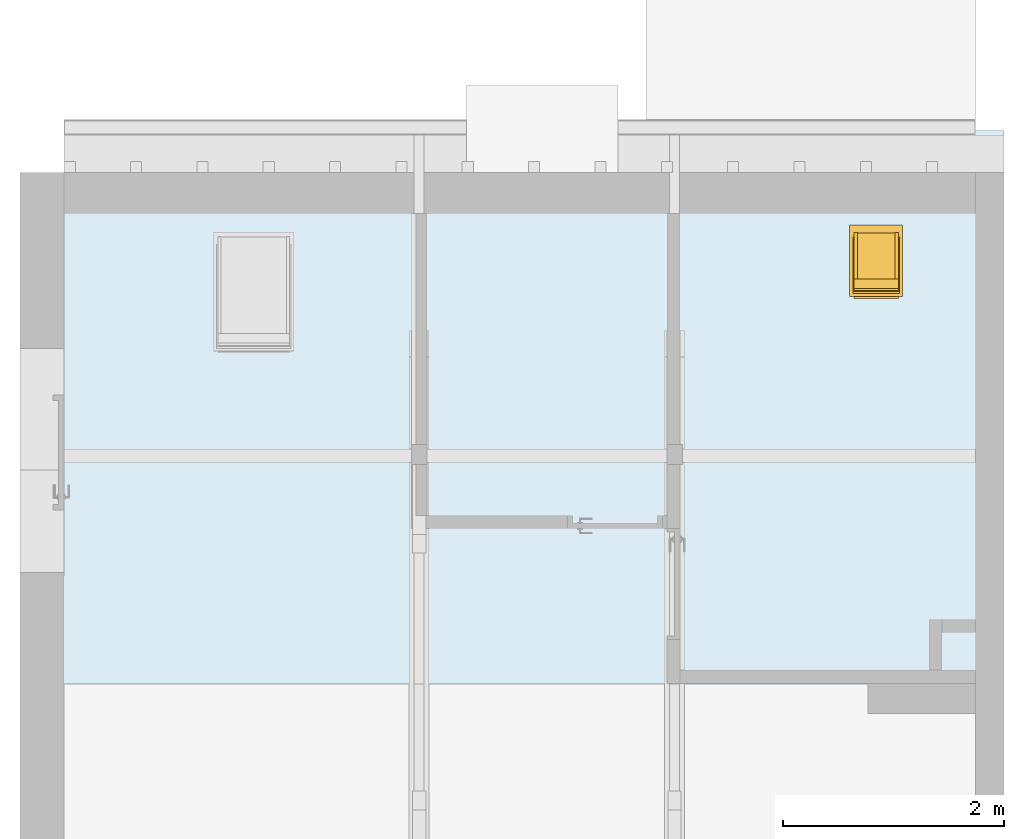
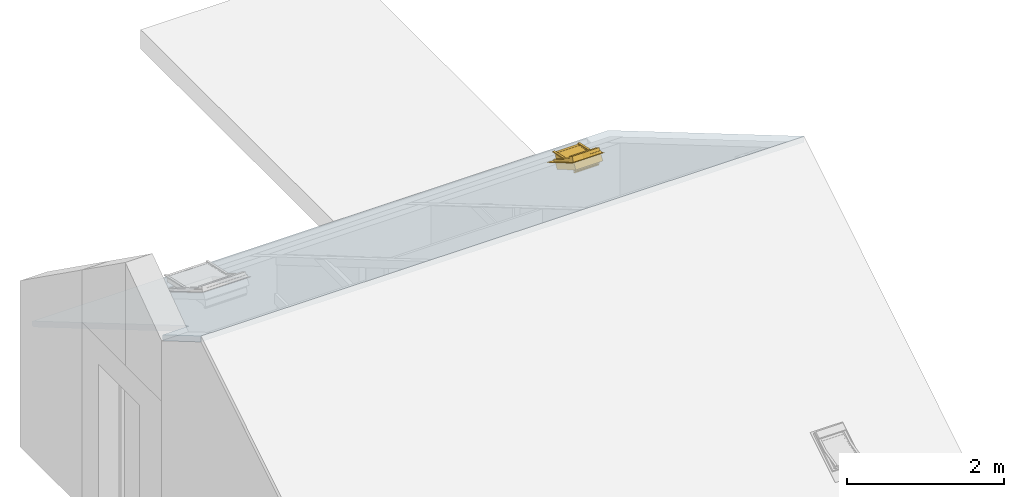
"""IFC4 building model written with IfcOpenShell, lengths in metres."""

from ifc_helpers import new_model, entity, si_unit, converted_unit, derived_unit, frame, frame_2d, origin, origin_with_axes, place, context, subcontext, project, spatial, rectangle, extrude, closed_shell, open_shell, faceted_brep, surface_model, source, transform, mapped, element, fill, aggregate, save


model = new_model("IFC4")

# Units and contexts
model_context = context("Model", 3, precision=1e-05, world=origin())
body_context = subcontext(model_context, "Body", "Model", "MODEL_VIEW")
ifc_project = project(units=[si_unit("LENGTHUNIT", "METRE"), si_unit("AREAUNIT", "SQUARE_METRE"), si_unit("VOLUMEUNIT", "CUBIC_METRE"), si_unit("MASSUNIT", "GRAM", prefix="KILO"), converted_unit("PLANEANGLEUNIT", "DEGREE", entity("IfcPlaneAngleMeasure", 0.0174532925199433), si_unit("PLANEANGLEUNIT", "RADIAN"), dimensions=[0, 0, 0, 0, 0, 0, 0]), derived_unit("THERMALTRANSMITTANCEUNIT", [(si_unit("POWERUNIT", "WATT"), 1), (si_unit("THERMODYNAMICTEMPERATUREUNIT", "KELVIN"), -1), (si_unit("LENGTHUNIT", "METRE"), -2)]), derived_unit("VOLUMETRICFLOWRATEUNIT", [(si_unit("LENGTHUNIT", "METRE"), 3), (converted_unit("TIMEUNIT", "hour", entity("IfcTimeMeasure", 3600.0), si_unit("TIMEUNIT", "SECOND"), dimensions=[0, 0, 1, 0, 0, 0, 0]), -1), (si_unit("LENGTHUNIT", "METRE"), -1)])], contexts=[model_context])

# Building, storeys
building_placement = place(None, origin())
building = spatial("IfcBuilding", under=ifc_project, at=building_placement, Name="Bestandsgebäude A - Sporthalle / Wohnhaus (TB 100-499)   ANPASSEN !!!", CompositionType="ELEMENT")
storey_1_placement = place(building_placement, frame((0.0, 0.0, 7.71)))
storey_1 = spatial("IfcBuildingStorey", under=building, at=storey_1_placement, Name="Geb. A Dachgeschoss (TB 450-499)", CompositionType="ELEMENT", Elevation=7.71)
storey_2_placement = place(storey_1_placement, frame((0.0, 0.0, 7.71)))
storey_2 = spatial("IfcBuildingStorey", under=storey_1, at=storey_2_placement, Name="Architektur (TB 450-459)", CompositionType="PARTIAL")

# Roof, slab, openings, window
roof_placement = place(storey_2_placement, frame((0.0, 0.0, -15.42)))
roof = element("IfcRoof", 1, at=roof_placement, inside=storey_2, PredefinedType="NOTDEFINED")
slab_placement = place(roof_placement, frame((-8.9, 4.62388384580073, 8.83032636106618)))
slab = element("IfcSlab", 2, at=slab_placement, PredefinedType="ROOF", context=body_context, shape_type="Brep", body=[
    faceted_brep([(8.9, 0.00103538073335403, 2.91966265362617), (8.9, 4.96556121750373, 0.0), (0.400000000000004, 4.96556121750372, 0.0), (0.399999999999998, 0.939365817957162, 2.36782579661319), (8.71746334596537e-05, 0.939365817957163, 2.36782579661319), (9.60849683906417e-08, 0.00103538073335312, 2.91966265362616), (1.78891452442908, 3.90897577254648, 0.621383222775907), (2.43891452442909, 3.90897577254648, 0.621383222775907), (2.43891452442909, 3.003893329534, 1.15366676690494), (1.78891452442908, 3.003893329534, 1.15366676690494), (7.54391452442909, 3.9734799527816, 0.583447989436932), (7.94391452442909, 3.9734799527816, 0.583447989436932), (7.94391452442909, 3.49938914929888, 0.862263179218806), (7.54391452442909, 3.49938914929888, 0.862263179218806), (8.9, 0.0, 3.01308079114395), (0.0, 0.0, 3.01308079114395), (9.09381957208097e-05, 0.979920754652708, 2.43678445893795), (0.399999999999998, 0.979920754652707, 2.43678445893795), (0.400000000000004, 5.00611615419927, 0.0689586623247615), (8.9, 5.00611615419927, 0.0689586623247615), (2.43891452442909, 3.94953070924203, 0.690341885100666), (1.78891452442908, 3.94953070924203, 0.690341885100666), (1.78891452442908, 3.04444826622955, 1.2226254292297), (2.43891452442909, 3.04444826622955, 1.2226254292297), (7.94391452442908, 4.01403488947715, 0.652406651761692), (7.54391452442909, 4.01403488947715, 0.652406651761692), (7.54391452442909, 3.53994408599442, 0.931221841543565), (7.94391452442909, 3.53994408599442, 0.931221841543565), (8.9, 5.00611615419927, 0.0), (0.399999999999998, 0.979920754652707, 2.36782579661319), (0.400000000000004, 5.00611615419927, 0.0), (9.09381957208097e-05, 0.979920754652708, 2.36782579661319)], [[[0, 1, 2, 3, 4, 5], [6, 7, 8, 9], [10, 11, 12, 13]], [[14, 15, 16, 17, 18, 19], [20, 21, 22, 23], [24, 25, 26, 27]], [[14, 19, 28, 1, 0]], [[18, 17, 29, 3, 2, 30]], [[16, 15, 5, 4, 31]], [[15, 14, 0, 5]], [[28, 30, 2, 1]], [[19, 18, 30, 28]], [[29, 31, 4, 3]], [[17, 16, 31, 29]], [[20, 7, 6, 21]], [[22, 9, 8, 23]], [[20, 23, 8, 7]], [[22, 21, 6, 9]], [[24, 11, 10, 25]], [[26, 13, 12, 27]], [[24, 27, 12, 11]], [[26, 25, 10, 13]]], orient=[[False, False, False], [False, False, False], [False], [False], [False], [False], [False], [False], [False], [False], [False], [False], [False], [False], [False], [False], [False], [False]]),
])
opening_1_placement = place(slab_placement, frame((2.43891452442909, 3.94953070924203, 0.690341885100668), z_axis=(-2.35561360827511e-16, 0.506936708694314, 0.861983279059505), x_axis=(1.0, 4.64676076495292e-16, 0.0)))
element("IfcOpeningElement", 3, at=opening_1_placement, cuts=slab, Name="Skylight", ObjectType="Opening", context=body_context, shape_type="SweptSolid", body=[
    extrude(rectangle(XDim=0.65, YDim=1.05, at=frame_2d((-0.325, -0.525), x_axis=(-1.0, 0.0))), origin_with_axes(), (0.0, 0.0, -1.0), 0.08),
])
opening_2_placement = place(slab_placement, frame((7.94391452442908, 4.01403488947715, 0.652406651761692), z_axis=(-2.35561360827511e-16, 0.506936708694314, 0.861983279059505), x_axis=(1.0, 4.64676076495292e-16, 0.0)))
opening_2 = element("IfcOpeningElement", 4, at=opening_2_placement, cuts=slab, Name="Skylight", ObjectType="Opening", context=body_context, shape_type="SweptSolid", body=[
    extrude(rectangle(XDim=0.4, YDim=0.55, at=frame_2d((-0.2, -0.275), x_axis=(-1.0, 2.27373675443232e-15))), origin_with_axes(), (0.0, 0.0, -1.0), 0.08),
])
shared_shape = source(origin_with_axes(), body_context, "Body", "SurfaceModel", [
    surface_model("IfcShellBasedSurfaceModel", [(0.03, 0.15, 0.149221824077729), (0.03, 0.15, 0.189221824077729), (0.049999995, 0.15, 0.189221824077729), (0.049999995, 0.15, 0.149221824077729), (0.03, 0.719999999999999, 0.189221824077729), (0.03, 0.719999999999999, 0.149221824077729), (0.049999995, 0.719999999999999, 0.149221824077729), (0.049999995, 0.719999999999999, 0.189221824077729)], [closed_shell([[[0, 1, 2, 3]], [[4, 5, 6, 7]], [[1, 0, 5, 4]], [[2, 1, 4, 7]], [[3, 2, 7, 6]], [[0, 3, 6, 5]]], orient=[[False], [False], [False], [False], [False], [False]])]),
    surface_model("IfcShellBasedSurfaceModel", [(0.430000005, 0.15, 0.149221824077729), (0.430000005, 0.15, 0.189221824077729), (0.45, 0.15, 0.189221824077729), (0.45, 0.15, 0.149221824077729), (0.430000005, 0.719999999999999, 0.189221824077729), (0.430000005, 0.719999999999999, 0.149221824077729), (0.45, 0.719999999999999, 0.149221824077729), (0.45, 0.719999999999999, 0.189221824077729)], [closed_shell([[[0, 1, 2, 3]], [[4, 5, 6, 7]], [[1, 0, 5, 4]], [[2, 1, 4, 7]], [[3, 2, 7, 6]], [[0, 3, 6, 5]]], orient=[[False], [False], [False], [False], [False], [False]])]),
    surface_model("IfcShellBasedSurfaceModel", [(0.049999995, 0.15, 0.149221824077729), (0.049999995, 0.15, 0.184221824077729), (0.430000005, 0.15, 0.184221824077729), (0.430000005, 0.15, 0.149221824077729), (0.049999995, 0.169999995, 0.184221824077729), (0.049999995, 0.169999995, 0.149221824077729), (0.430000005, 0.169999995, 0.149221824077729), (0.430000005, 0.169999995, 0.184221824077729)], [closed_shell([[[0, 1, 2, 3]], [[4, 5, 6, 7]], [[1, 0, 5, 4]], [[2, 1, 4, 7]], [[3, 2, 7, 6]], [[0, 3, 6, 5]]], orient=[[False], [False], [False], [False], [False], [False]])]),
    surface_model("IfcShellBasedSurfaceModel", [(0.049999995, 0.700000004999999, 0.149221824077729), (0.049999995, 0.700000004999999, 0.189221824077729), (0.430000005, 0.700000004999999, 0.189221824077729), (0.430000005, 0.700000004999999, 0.149221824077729), (0.049999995, 0.719999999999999, 0.189221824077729), (0.049999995, 0.719999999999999, 0.149221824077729), (0.430000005, 0.719999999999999, 0.149221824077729), (0.430000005, 0.719999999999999, 0.189221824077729)], [closed_shell([[[0, 1, 2, 3]], [[4, 5, 6, 7]], [[1, 0, 5, 4]], [[2, 1, 4, 7]], [[3, 2, 7, 6]], [[0, 3, 6, 5]]], orient=[[False], [False], [False], [False], [False], [False]])]),
    surface_model("IfcShellBasedSurfaceModel", [(0.0, 0.0, 0.149221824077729), (0.0, 0.0, 0.154221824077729), (0.03, 0.0, 0.154221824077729), (0.03, 0.0, 0.149221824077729), (0.0, 0.719999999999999, 0.154221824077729), (0.0, 0.719999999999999, 0.149221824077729), (0.03, 0.719999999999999, 0.149221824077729), (0.03, 0.719999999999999, 0.154221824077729)], [closed_shell([[[0, 1, 2, 3]], [[4, 5, 6, 7]], [[1, 0, 5, 4]], [[2, 1, 4, 7]], [[3, 2, 7, 6]], [[0, 3, 6, 5]]], orient=[[False], [False], [False], [False], [False], [False]])]),
    surface_model("IfcShellBasedSurfaceModel", [(0.03, 0.0, 0.149221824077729), (0.03, 0.0, 0.154221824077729), (0.45, 0.0, 0.154221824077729), (0.45, 0.0, 0.149221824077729), (0.03, 0.15, 0.154221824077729), (0.03, 0.15, 0.149221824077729), (0.45, 0.15, 0.149221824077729), (0.45, 0.15, 0.154221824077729)], [closed_shell([[[0, 1, 2, 3]], [[4, 5, 6, 7]], [[1, 0, 5, 4]], [[2, 1, 4, 7]], [[3, 2, 7, 6]], [[0, 3, 6, 5]]], orient=[[False], [False], [False], [False], [False], [False]])]),
    surface_model("IfcShellBasedSurfaceModel", [(0.45, 0.0, 0.149221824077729), (0.45, 0.0, 0.154221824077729), (0.48, 0.0, 0.154221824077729), (0.48, 0.0, 0.149221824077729), (0.45, 0.719999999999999, 0.154221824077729), (0.45, 0.719999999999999, 0.149221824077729), (0.48, 0.719999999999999, 0.149221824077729), (0.48, 0.719999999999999, 0.154221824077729)], [closed_shell([[[0, 1, 2, 3]], [[4, 5, 6, 7]], [[1, 0, 5, 4]], [[2, 1, 4, 7]], [[3, 2, 7, 6]], [[0, 3, 6, 5]]], orient=[[False], [False], [False], [False], [False], [False]])]),
    surface_model("IfcShellBasedSurfaceModel", [(0.0, 0.719999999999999, 0.149221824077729), (0.0, 0.719999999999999, 0.154221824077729), (0.48, 0.719999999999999, 0.154221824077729), (0.48, 0.719999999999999, 0.149221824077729), (0.0, 0.749999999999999, 0.154221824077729), (0.0, 0.749999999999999, 0.149221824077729), (0.48, 0.749999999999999, 0.149221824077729), (0.48, 0.749999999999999, 0.154221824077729)], [closed_shell([[[0, 1, 2, 3]], [[4, 5, 6, 7]], [[1, 0, 5, 4]], [[2, 1, 4, 7]], [[3, 2, 7, 6]], [[0, 3, 6, 5]]], orient=[[False], [False], [False], [False], [False], [False]])]),
    surface_model("IfcShellBasedSurfaceModel", [(0.049999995, 0.17999999, 0.149221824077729), (0.049999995, 0.17999999, 0.189221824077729), (0.05999999, 0.17999999, 0.189221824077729), (0.05999999, 0.17999999, 0.0492218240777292), (0.04, 0.17999999, 0.0492218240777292), (0.04, 0.17999999, 0.149221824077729), (0.049999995, 0.690000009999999, 0.189221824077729), (0.049999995, 0.690000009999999, 0.149221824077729), (0.04, 0.690000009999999, 0.149221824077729), (0.04, 0.690000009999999, 0.0492218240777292), (0.05999999, 0.690000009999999, 0.0492218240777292), (0.05999999, 0.690000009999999, 0.189221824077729)], [closed_shell([[[0, 1, 2, 3, 4, 5]], [[6, 7, 8, 9, 10, 11]], [[1, 0, 7, 6]], [[2, 1, 6, 11]], [[3, 2, 11, 10]], [[4, 3, 10, 9]], [[5, 4, 9, 8]], [[0, 5, 8, 7]]], orient=[[False], [False], [False], [False], [False], [False], [False], [False]])]),
    surface_model("IfcShellBasedSurfaceModel", [(0.42000001, 0.17999999, 0.0492218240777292), (0.42000001, 0.17999999, 0.189221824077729), (0.430000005, 0.17999999, 0.189221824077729), (0.430000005, 0.17999999, 0.149221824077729), (0.44, 0.17999999, 0.149221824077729), (0.44, 0.17999999, 0.0492218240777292), (0.42000001, 0.690000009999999, 0.189221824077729), (0.42000001, 0.690000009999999, 0.0492218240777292), (0.44, 0.690000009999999, 0.0492218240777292), (0.44, 0.690000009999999, 0.149221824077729), (0.430000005, 0.690000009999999, 0.149221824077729), (0.430000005, 0.690000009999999, 0.189221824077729)], [closed_shell([[[0, 1, 2, 3, 4, 5]], [[6, 7, 8, 9, 10, 11]], [[1, 0, 7, 6]], [[2, 1, 6, 11]], [[3, 2, 11, 10]], [[4, 3, 10, 9]], [[5, 4, 9, 8]], [[0, 5, 8, 7]]], orient=[[False], [False], [False], [False], [False], [False], [False], [False]])]),
    surface_model("IfcShellBasedSurfaceModel", [(0.04, 0.17999999, 0.184221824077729), (0.04, 0.169999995, 0.184221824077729), (0.04, 0.169999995, 0.149221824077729), (0.04, 0.16, 0.149221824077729), (0.04, 0.16, 0.0492218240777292), (0.04, 0.17999999, 0.0492218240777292), (0.44, 0.169999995, 0.184221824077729), (0.44, 0.17999999, 0.184221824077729), (0.44, 0.17999999, 0.0492218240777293), (0.44, 0.16, 0.0492218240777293), (0.44, 0.16, 0.149221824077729), (0.44, 0.169999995, 0.149221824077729)], [closed_shell([[[0, 1, 2, 3, 4, 5]], [[6, 7, 8, 9, 10, 11]], [[1, 0, 7, 6]], [[2, 1, 6, 11]], [[3, 2, 11, 10]], [[4, 3, 10, 9]], [[5, 4, 9, 8]], [[0, 5, 8, 7]]], orient=[[False], [False], [False], [False], [False], [False], [False], [False]])]),
    surface_model("IfcShellBasedSurfaceModel", [(0.04, 0.700000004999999, 0.189221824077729), (0.04, 0.690000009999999, 0.189221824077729), (0.04, 0.690000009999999, 0.0492218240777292), (0.04, 0.709999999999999, 0.0492218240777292), (0.04, 0.709999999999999, 0.149221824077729), (0.04, 0.700000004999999, 0.149221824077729), (0.44, 0.690000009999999, 0.189221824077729), (0.44, 0.700000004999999, 0.189221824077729), (0.44, 0.700000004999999, 0.149221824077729), (0.44, 0.709999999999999, 0.149221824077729), (0.44, 0.709999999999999, 0.0492218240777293), (0.44, 0.690000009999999, 0.0492218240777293)], [closed_shell([[[0, 1, 2, 3, 4, 5]], [[6, 7, 8, 9, 10, 11]], [[1, 0, 7, 6]], [[2, 1, 6, 11]], [[3, 2, 11, 10]], [[4, 3, 10, 9]], [[5, 4, 9, 8]], [[0, 5, 8, 7]]], orient=[[False], [False], [False], [False], [False], [False], [False], [False]])]),
    surface_model("IfcShellBasedSurfaceModel", [(0.03999999, 0.435, 0.189221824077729), (0.03999999, 0.435, 0.204221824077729), (0.06999999, 0.435, 0.204221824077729), (0.06999999, 0.435, 0.189221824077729), (0.03999999, 0.690000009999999, 0.204221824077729), (0.03999999, 0.690000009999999, 0.189221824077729), (0.06999999, 0.690000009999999, 0.189221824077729), (0.06999999, 0.690000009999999, 0.204221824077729)], [closed_shell([[[0, 1, 2, 3]], [[4, 5, 6, 7]], [[1, 0, 5, 4]], [[2, 1, 4, 7]], [[3, 2, 7, 6]], [[0, 3, 6, 5]]], orient=[[False], [False], [False], [False], [False], [False]])]),
    surface_model("IfcShellBasedSurfaceModel", [(0.41000001, 0.435, 0.189221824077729), (0.41000001, 0.435, 0.204221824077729), (0.44000001, 0.435, 0.204221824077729), (0.44000001, 0.435, 0.189221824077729), (0.41000001, 0.690000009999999, 0.204221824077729), (0.41000001, 0.690000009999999, 0.189221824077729), (0.44000001, 0.690000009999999, 0.189221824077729), (0.44000001, 0.690000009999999, 0.204221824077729)], [closed_shell([[[0, 1, 2, 3]], [[4, 5, 6, 7]], [[1, 0, 5, 4]], [[2, 1, 4, 7]], [[3, 2, 7, 6]], [[0, 3, 6, 5]]], orient=[[False], [False], [False], [False], [False], [False]])]),
    surface_model("IfcShellBasedSurfaceModel", [(0.04, 0.610000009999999, 0.189221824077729), (0.04, 0.610000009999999, 0.229221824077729), (0.44, 0.610000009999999, 0.229221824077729), (0.44, 0.610000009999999, 0.189221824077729), (0.04, 0.709999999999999, 0.229221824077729), (0.04, 0.709999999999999, 0.189221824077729), (0.44, 0.709999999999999, 0.189221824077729), (0.44, 0.709999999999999, 0.229221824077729)], [closed_shell([[[0, 1, 2, 3]], [[4, 5, 6, 7]], [[1, 0, 5, 4]], [[2, 1, 4, 7]], [[3, 2, 7, 6]], [[0, 3, 6, 5]]], orient=[[False], [False], [False], [False], [False], [False]])]),
    surface_model("IfcShellBasedSurfaceModel", [(0.07999998, 0.206093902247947, 0.260197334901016), (0.40000002, 0.206093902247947, 0.260197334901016), (0.40000002, 0.596027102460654, 0.133500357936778), (0.07999998, 0.596027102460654, 0.133500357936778)], [open_shell([[[0, 1, 2, 3]]], orient=[[False]])]),
    surface_model("IfcShellBasedSurfaceModel", [(0.069999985, 0.195810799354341, 0.260909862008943), (0.069999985, 0.197355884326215, 0.265665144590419), (0.07999998, 0.197355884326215, 0.265665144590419), (0.07999998, 0.195810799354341, 0.260909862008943), (0.069999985, 0.606310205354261, 0.132787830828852), (0.069999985, 0.604765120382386, 0.128032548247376), (0.07999998, 0.604765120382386, 0.128032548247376), (0.07999998, 0.606310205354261, 0.132787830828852)], [closed_shell([[[0, 1, 2, 3]], [[4, 5, 6, 7]], [[1, 0, 5, 4]], [[2, 1, 4, 7]], [[3, 2, 7, 6]], [[0, 3, 6, 5]]], orient=[[False], [False], [False], [False], [False], [False]])]),
    surface_model("IfcShellBasedSurfaceModel", [(0.40000002, 0.195810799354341, 0.260909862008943), (0.40000002, 0.197355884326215, 0.265665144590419), (0.410000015, 0.197355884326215, 0.265665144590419), (0.410000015, 0.195810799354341, 0.260909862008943), (0.40000002, 0.606310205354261, 0.132787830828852), (0.40000002, 0.604765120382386, 0.128032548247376), (0.410000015, 0.604765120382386, 0.128032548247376), (0.410000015, 0.606310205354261, 0.132787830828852)], [closed_shell([[[0, 1, 2, 3]], [[4, 5, 6, 7]], [[1, 0, 5, 4]], [[2, 1, 4, 7]], [[3, 2, 7, 6]], [[0, 3, 6, 5]]], orient=[[False], [False], [False], [False], [False], [False]])]),
    surface_model("IfcShellBasedSurfaceModel", [(0.07999998, 0.195810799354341, 0.260909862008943), (0.07999998, 0.197355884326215, 0.265665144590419), (0.40000002, 0.197355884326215, 0.265665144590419), (0.40000002, 0.195810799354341, 0.260909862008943), (0.07999998, 0.206866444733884, 0.262574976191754), (0.07999998, 0.20532135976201, 0.257819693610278), (0.40000002, 0.20532135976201, 0.257819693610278), (0.40000002, 0.206866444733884, 0.262574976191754)], [closed_shell([[[0, 1, 2, 3]], [[4, 5, 6, 7]], [[1, 0, 5, 4]], [[2, 1, 4, 7]], [[3, 2, 7, 6]], [[0, 3, 6, 5]]], orient=[[False], [False], [False], [False], [False], [False]])]),
    surface_model("IfcShellBasedSurfaceModel", [(0.07999998, 0.595254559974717, 0.131122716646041), (0.07999998, 0.596799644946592, 0.135877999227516), (0.40000002, 0.596799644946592, 0.135877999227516), (0.40000002, 0.595254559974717, 0.131122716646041), (0.07999998, 0.606310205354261, 0.132787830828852), (0.07999998, 0.604765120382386, 0.128032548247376), (0.40000002, 0.604765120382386, 0.128032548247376), (0.40000002, 0.606310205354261, 0.132787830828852)], [closed_shell([[[0, 1, 2, 3]], [[4, 5, 6, 7]], [[1, 0, 5, 4]], [[2, 1, 4, 7]], [[3, 2, 7, 6]], [[0, 3, 6, 5]]], orient=[[False], [False], [False], [False], [False], [False]])]),
    surface_model("IfcShellBasedSurfaceModel", [(0.05999999, 0.163123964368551, 0.192670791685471), (0.05999999, 0.187845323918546, 0.268755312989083), (0.069999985, 0.187845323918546, 0.268755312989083), (0.069999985, 0.186300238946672, 0.264000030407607), (0.07999998, 0.186300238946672, 0.264000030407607), (0.07999998, 0.163123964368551, 0.192670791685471), (0.05999999, 0.672884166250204, 0.111156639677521), (0.05999999, 0.648162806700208, 0.0350721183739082), (0.07999998, 0.648162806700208, 0.0350721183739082), (0.07999998, 0.671339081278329, 0.106401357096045), (0.069999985, 0.671339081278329, 0.106401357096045), (0.069999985, 0.672884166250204, 0.111156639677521)], [closed_shell([[[0, 1, 2, 3, 4, 5]], [[6, 7, 8, 9, 10, 11]], [[1, 0, 7, 6]], [[2, 1, 6, 11]], [[3, 2, 11, 10]], [[4, 3, 10, 9]], [[5, 4, 9, 8]], [[0, 5, 8, 7]]], orient=[[False], [False], [False], [False], [False], [False], [False], [False]])]),
    surface_model("IfcShellBasedSurfaceModel", [(0.410000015, 0.186300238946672, 0.264000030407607), (0.410000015, 0.187845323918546, 0.268755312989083), (0.42000001, 0.187845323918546, 0.268755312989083), (0.42000001, 0.163123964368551, 0.192670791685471), (0.40000002, 0.163123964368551, 0.192670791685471), (0.40000002, 0.186300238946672, 0.264000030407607), (0.410000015, 0.672884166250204, 0.111156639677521), (0.410000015, 0.671339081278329, 0.106401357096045), (0.40000002, 0.671339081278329, 0.106401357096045), (0.40000002, 0.648162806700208, 0.0350721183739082), (0.42000001, 0.648162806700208, 0.0350721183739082), (0.42000001, 0.672884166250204, 0.111156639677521)], [closed_shell([[[0, 1, 2, 3, 4, 5]], [[6, 7, 8, 9, 10, 11]], [[1, 0, 7, 6]], [[2, 1, 6, 11]], [[3, 2, 11, 10]], [[4, 3, 10, 9]], [[5, 4, 9, 8]], [[0, 5, 8, 7]]], orient=[[False], [False], [False], [False], [False], [False], [False], [False]])]),
    surface_model("IfcShellBasedSurfaceModel", [(0.07999998, 0.163123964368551, 0.192670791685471), (0.07999998, 0.186300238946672, 0.264000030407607), (0.40000002, 0.186300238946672, 0.264000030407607), (0.40000002, 0.163123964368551, 0.192670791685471), (0.07999998, 0.20532135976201, 0.257819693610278), (0.07999998, 0.182145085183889, 0.186490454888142), (0.40000002, 0.182145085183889, 0.186490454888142), (0.40000002, 0.20532135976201, 0.257819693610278)], [closed_shell([[[0, 1, 2, 3]], [[4, 5, 6, 7]], [[1, 0, 5, 4]], [[2, 1, 4, 7]], [[3, 2, 7, 6]], [[0, 3, 6, 5]]], orient=[[False], [False], [False], [False], [False], [False]])]),
    surface_model("IfcShellBasedSurfaceModel", [(0.07999998, 0.572078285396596, 0.059793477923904), (0.07999998, 0.595254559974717, 0.131122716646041), (0.40000002, 0.595254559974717, 0.131122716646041), (0.40000002, 0.572078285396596, 0.059793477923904), (0.07999998, 0.67133908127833, 0.106401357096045), (0.07999998, 0.648162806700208, 0.0350721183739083), (0.40000002, 0.648162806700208, 0.0350721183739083), (0.40000002, 0.67133908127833, 0.106401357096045)], [closed_shell([[[0, 1, 2, 3]], [[4, 5, 6, 7]], [[1, 0, 5, 4]], [[2, 1, 4, 7]], [[3, 2, 7, 6]], [[0, 3, 6, 5]]], orient=[[False], [False], [False], [False], [False], [False]])]),
    surface_model("IfcShellBasedSurfaceModel", [(0.05999999, 0.576953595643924, 0.0424374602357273), (0.05999999, 0.581588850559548, 0.0567033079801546), (0.42000001, 0.581588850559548, 0.0567033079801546), (0.42000001, 0.576953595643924, 0.0424374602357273), (0.05999999, 0.638652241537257, 0.0381622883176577), (0.05999999, 0.634016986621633, 0.0238964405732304), (0.42000001, 0.634016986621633, 0.0238964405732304), (0.42000001, 0.638652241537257, 0.0381622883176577)], [closed_shell([[[0, 1, 2, 3]], [[4, 5, 6, 7]], [[1, 0, 5, 4]], [[2, 1, 4, 7]], [[3, 2, 7, 6]], [[0, 3, 6, 5]]], orient=[[False], [False], [False], [False], [False], [False]])]),
    surface_model("IfcShellBasedSurfaceModel", [(0.07499999, 0.592172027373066, 0.0164634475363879), (0.07499999, 0.598352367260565, 0.035484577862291), (0.08999999, 0.598352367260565, 0.035484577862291), (0.08999999, 0.592172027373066, 0.0164634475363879), (0.07499999, 0.612618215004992, 0.0308493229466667), (0.07499999, 0.606437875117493, 0.0118281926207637), (0.08999999, 0.606437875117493, 0.0118281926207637), (0.08999999, 0.612618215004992, 0.0308493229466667)], [closed_shell([[[0, 1, 2, 3]], [[4, 5, 6, 7]], [[1, 0, 5, 4]], [[2, 1, 4, 7]], [[3, 2, 7, 6]], [[0, 3, 6, 5]]], orient=[[False], [False], [False], [False], [False], [False]])]),
    surface_model("IfcShellBasedSurfaceModel", [(0.179999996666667, 0.592172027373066, 0.0164634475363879), (0.179999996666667, 0.598352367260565, 0.035484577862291), (0.194999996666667, 0.598352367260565, 0.035484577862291), (0.194999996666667, 0.592172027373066, 0.0164634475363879), (0.179999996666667, 0.612618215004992, 0.0308493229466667), (0.179999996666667, 0.606437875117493, 0.0118281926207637), (0.194999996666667, 0.606437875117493, 0.0118281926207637), (0.194999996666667, 0.612618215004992, 0.0308493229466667)], [closed_shell([[[0, 1, 2, 3]], [[4, 5, 6, 7]], [[1, 0, 5, 4]], [[2, 1, 4, 7]], [[3, 2, 7, 6]], [[0, 3, 6, 5]]], orient=[[False], [False], [False], [False], [False], [False]])]),
    surface_model("IfcShellBasedSurfaceModel", [(0.285000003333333, 0.592172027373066, 0.0164634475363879), (0.285000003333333, 0.598352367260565, 0.035484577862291), (0.300000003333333, 0.598352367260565, 0.035484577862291), (0.300000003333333, 0.592172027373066, 0.0164634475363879), (0.285000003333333, 0.612618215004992, 0.0308493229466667), (0.285000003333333, 0.606437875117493, 0.0118281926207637), (0.300000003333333, 0.606437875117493, 0.0118281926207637), (0.300000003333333, 0.612618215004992, 0.0308493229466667)], [closed_shell([[[0, 1, 2, 3]], [[4, 5, 6, 7]], [[1, 0, 5, 4]], [[2, 1, 4, 7]], [[3, 2, 7, 6]], [[0, 3, 6, 5]]], orient=[[False], [False], [False], [False], [False], [False]])]),
    surface_model("IfcShellBasedSurfaceModel", [(0.39000001, 0.592172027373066, 0.0164634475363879), (0.39000001, 0.598352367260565, 0.035484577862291), (0.40500001, 0.598352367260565, 0.035484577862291), (0.40500001, 0.592172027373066, 0.0164634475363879), (0.39000001, 0.612618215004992, 0.0308493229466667), (0.39000001, 0.606437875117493, 0.0118281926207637), (0.40500001, 0.606437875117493, 0.0118281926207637), (0.40500001, 0.612618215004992, 0.0308493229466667)], [closed_shell([[[0, 1, 2, 3]], [[4, 5, 6, 7]], [[1, 0, 5, 4]], [[2, 1, 4, 7]], [[3, 2, 7, 6]], [[0, 3, 6, 5]]], orient=[[False], [False], [False], [False], [False], [False]])]),
    surface_model("IfcShellBasedSurfaceModel", [(0.05999999, 0.581948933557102, 0.00927050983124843), (0.05999999, 0.585039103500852, 0.0187810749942), (0.42000001, 0.585039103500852, 0.0187810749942), (0.42000001, 0.581948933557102, 0.00927050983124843), (0.05999999, 0.613570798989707, 0.00951056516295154), (0.05999999, 0.610480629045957, 0.0), (0.42000001, 0.610480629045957, 0.0), (0.42000001, 0.613570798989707, 0.00951056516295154)], [closed_shell([[[0, 1, 2, 3]], [[4, 5, 6, 7]], [[1, 0, 5, 4]], [[2, 1, 4, 7]], [[3, 2, 7, 6]], [[0, 3, 6, 5]]], orient=[[False], [False], [False], [False], [False], [False]])]),
    surface_model("IfcShellBasedSurfaceModel", [(0.03999999, 0.159313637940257, 0.278025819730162), (0.03999999, 0.163948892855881, 0.292291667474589), (0.06999999, 0.163948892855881, 0.292291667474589), (0.06999999, 0.159313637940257, 0.278025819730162), (0.03999999, 0.435, 0.204221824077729), (0.03999999, 0.430364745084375, 0.189955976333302), (0.06999999, 0.430364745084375, 0.189955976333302), (0.06999999, 0.435, 0.204221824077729)], [closed_shell([[[0, 1, 2, 3]], [[4, 5, 6, 7]], [[1, 0, 5, 4]], [[2, 1, 4, 7]], [[3, 2, 7, 6]], [[0, 3, 6, 5]]], orient=[[False], [False], [False], [False], [False], [False]])]),
    surface_model("IfcShellBasedSurfaceModel", [(0.41000001, 0.159313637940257, 0.278025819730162), (0.41000001, 0.163948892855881, 0.292291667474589), (0.44000001, 0.163948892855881, 0.292291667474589), (0.44000001, 0.159313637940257, 0.278025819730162), (0.41000001, 0.435, 0.204221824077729), (0.41000001, 0.430364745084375, 0.189955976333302), (0.44000001, 0.430364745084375, 0.189955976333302), (0.44000001, 0.435, 0.204221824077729)], [closed_shell([[[0, 1, 2, 3]], [[4, 5, 6, 7]], [[1, 0, 5, 4]], [[2, 1, 4, 7]], [[3, 2, 7, 6]], [[0, 3, 6, 5]]], orient=[[False], [False], [False], [False], [False], [False]])]),
    surface_model("IfcShellBasedSurfaceModel", [(0.049999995, 0.157768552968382, 0.273270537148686), (0.049999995, 0.159313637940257, 0.278025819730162), (0.430000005, 0.159313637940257, 0.278025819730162), (0.430000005, 0.157768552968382, 0.273270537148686), (0.049999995, 0.197355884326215, 0.265665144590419), (0.049999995, 0.195810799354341, 0.260909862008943), (0.430000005, 0.195810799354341, 0.260909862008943), (0.430000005, 0.197355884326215, 0.265665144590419)], [closed_shell([[[0, 1, 2, 3]], [[4, 5, 6, 7]], [[1, 0, 5, 4]], [[2, 1, 4, 7]], [[3, 2, 7, 6]], [[0, 3, 6, 5]]], orient=[[False], [False], [False], [False], [False], [False]])]),
])
window_placement = place(opening_2_placement, frame((0.0400000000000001, 0.159999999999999, -0.149221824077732), z_axis=(2.9764320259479e-16, 1.94289029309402e-15, 1.0), x_axis=(-1.0, 5.06105514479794e-16, 2.97643202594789e-16)))
window = element("IfcWindow", 5, at=window_placement, inside=storey_2, Name="1c white", OverallHeight=0.55, OverallWidth=0.4, PartitioningType="USERDEFINED", PredefinedType="SKYLIGHT", context=body_context, shape_type="MappedRepresentation", body=[
    mapped(shared_shape, transform((0.0, 0.0, 0.0), x_axis=(1.0, 0.0, 0.0), y_axis=(0.0, 1.0, 0.0), z_axis=(0.0, 0.0, 1.0), scale=1.0)),
])
fill(opening_2, window)
aggregate(roof, [slab])

save(model, "model.ifc")
